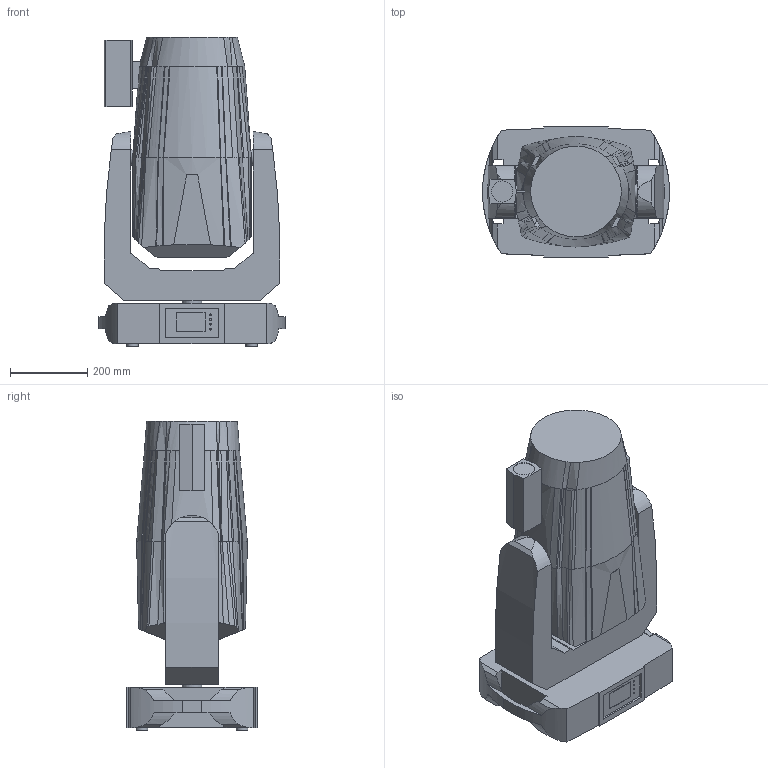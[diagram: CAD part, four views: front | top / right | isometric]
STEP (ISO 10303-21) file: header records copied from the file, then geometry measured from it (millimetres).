
FILE_DESCRIPTION(/* description */ ('Unknown'),/* implementation_level */ '2;1');
FILE_NAME(/* name */ '3D_T2 FS',/* time_stamp */ '2021-02-10T17:43:38+01:00',/* author */ ('Ing.Rostislav HĂˇba'),/* organization */ ('ROBE lighting'),/* preprocessor_version */ 'ST-DEVELOPER v16.7',/* originating_system */ 'Solid Edge',/* authorisation */ 'Unknown');
FILE_SCHEMA (('AUTOMOTIVE_DESIGN {1 0 10303 214 3 1 1}'));
Length unit declared in the file: millimetre
Products named in the file (5): 3D_T2 FS; BMFL_base; Arm Forte; Head T2; 3D_Head Cam
Assembly tree (4 placements, depth 2):
  3D_T2 FS
    BMFL_base
    Arm Forte
    Head T2
    3D_Head Cam
Bounding box: 482.55 x 339.31 x 802.93 mm (x, y, z)
Volume: 63175840.6 mm3; surface area: 1673892.5 mm2
Topology: 4 solids, 4 shells, 288 faces, 710 edges, 457 vertices
Faces by surface type: plane 131, bspline 103, cylinder 54
Full cylindrical faces by diameter (mm): 4.153 x4, 10 x10, 20.926 x6, 30 x4, 32 x1, 40.237 x2, 50 x1, 51 x1, 55 x1
Entity records: 9076 total; most frequent: CARTESIAN_POINT 2774, ORIENTED_EDGE 1356, DIRECTION 1044, EDGE_CURVE 678, VERTEX_POINT 455, AXIS2_PLACEMENT_3D 359, EDGE_LOOP 351, FACE_BOUND 351
